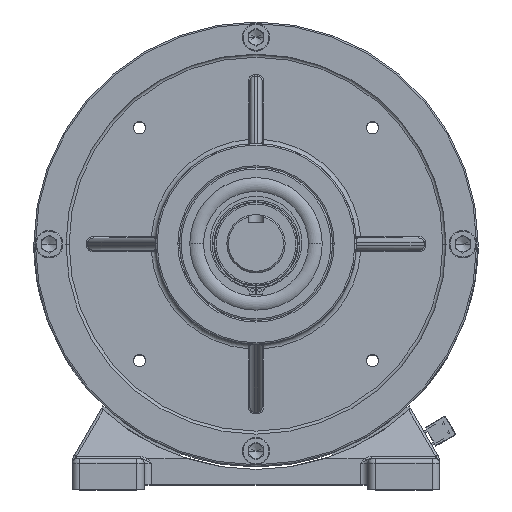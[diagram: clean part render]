
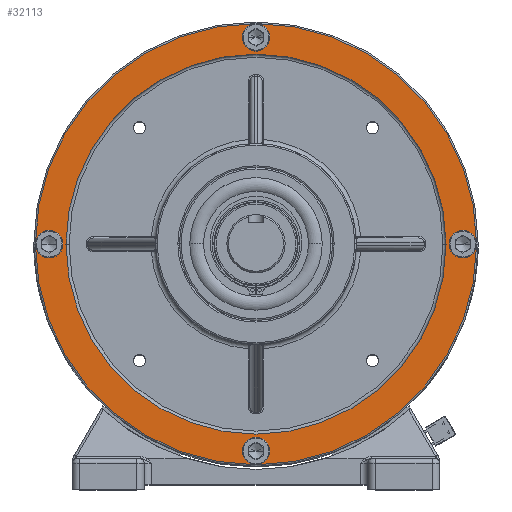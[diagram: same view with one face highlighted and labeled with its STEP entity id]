
A CAD part, top view. The second image highlights one B-rep face of the part: STEP entity #32113.
In plain terms, the highlighted planar face has unit normal (0, 0, 1).
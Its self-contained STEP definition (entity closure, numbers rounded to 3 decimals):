
#843 = EDGE_LOOP ( 'NONE', ( #33745, #5293 ) ) ;
#1781 = AXIS2_PLACEMENT_3D ( 'NONE', #44898, #23584, #2336 ) ;
#1941 = CARTESIAN_POINT ( 'NONE',  ( 135., 0., 348.5 ) ) ;
#2181 = AXIS2_PLACEMENT_3D ( 'NONE', #26622, #5390, #30246 ) ;
#2296 = AXIS2_PLACEMENT_3D ( 'NONE', #16913, #41775, #20469 ) ;
#2336 = DIRECTION ( 'NONE',  ( -1., 0., 0. ) ) ;
#2632 = CARTESIAN_POINT ( 'NONE',  ( 0., 135., 348.5 ) ) ;
#3767 = CIRCLE ( 'NONE', #1781, 7. ) ;
#5293 = ORIENTED_EDGE ( 'NONE', *, *, #15251, .T. ) ;
#5390 = DIRECTION ( 'NONE',  ( 0., 0., -1. ) ) ;
#5490 = ORIENTED_EDGE ( 'NONE', *, *, #11620, .T. ) ;
#5500 = DIRECTION ( 'NONE',  ( -1., 0., 0. ) ) ;
#5989 = CIRCLE ( 'NONE', #39864, 124. ) ;
#6180 = DIRECTION ( 'NONE',  ( -1., 0., 0. ) ) ;
#6523 = DIRECTION ( 'NONE',  ( 0., 0., 1. ) ) ;
#6557 = CIRCLE ( 'NONE', #2181, 7. ) ;
#7127 = AXIS2_PLACEMENT_3D ( 'NONE', #11633, #34487, #16805 ) ;
#7597 = ORIENTED_EDGE ( 'NONE', *, *, #15471, .T. ) ;
#7679 = FACE_OUTER_BOUND ( 'NONE', #44440, .T. ) ;
#8318 = DIRECTION ( 'NONE',  ( 0., 0., 1. ) ) ;
#8787 = VERTEX_POINT ( 'NONE', #23268 ) ;
#8816 = FACE_BOUND ( 'NONE', #36359, .T. ) ;
#9112 = CARTESIAN_POINT ( 'NONE',  ( 0., 124., 348.5 ) ) ;
#9272 = CARTESIAN_POINT ( 'NONE',  ( 128., 0., 348.5 ) ) ;
#9722 = EDGE_CURVE ( 'NONE', #8787, #16651, #35888, .T. ) ;
#11620 = EDGE_CURVE ( 'NONE', #12908, #12903, #28414, .T. ) ;
#11633 = CARTESIAN_POINT ( 'NONE',  ( -135., 0., 348.5 ) ) ;
#12652 = DIRECTION ( 'NONE',  ( -1., 0., 0. ) ) ;
#12903 = VERTEX_POINT ( 'NONE', #28901 ) ;
#12908 = VERTEX_POINT ( 'NONE', #18017 ) ;
#14104 = AXIS2_PLACEMENT_3D ( 'NONE', #37357, #16062, #40925 ) ;
#14134 = VERTEX_POINT ( 'NONE', #44191 ) ;
#14423 = CIRCLE ( 'NONE', #41578, 7. ) ;
#14519 = ORIENTED_EDGE ( 'NONE', *, *, #22130, .T. ) ;
#14599 = VERTEX_POINT ( 'NONE', #25026 ) ;
#14783 = CIRCLE ( 'NONE', #25792, 7. ) ;
#14851 = CARTESIAN_POINT ( 'NONE',  ( 142., 0., 348.5 ) ) ;
#14951 = DIRECTION ( 'NONE',  ( -1., 0., 0. ) ) ;
#15135 = AXIS2_PLACEMENT_3D ( 'NONE', #29399, #19416, #29974 ) ;
#15251 = EDGE_CURVE ( 'NONE', #21447, #29538, #3767, .T. ) ;
#15471 = EDGE_CURVE ( 'NONE', #12903, #12908, #33699, .T. ) ;
#15618 = CIRCLE ( 'NONE', #19395, 144. ) ;
#15788 = PLANE ( 'NONE',  #27388 ) ;
#15838 = DIRECTION ( 'NONE',  ( 0., 0., 1. ) ) ;
#16062 = DIRECTION ( 'NONE',  ( 0., 0., -1. ) ) ;
#16651 = VERTEX_POINT ( 'NONE', #37558 ) ;
#16805 = DIRECTION ( 'NONE',  ( -1., 0., 0. ) ) ;
#16913 = CARTESIAN_POINT ( 'NONE',  ( 0., -135., 348.5 ) ) ;
#17110 = FACE_BOUND ( 'NONE', #18859, .T. ) ;
#18017 = CARTESIAN_POINT ( 'NONE',  ( -128., 0., 348.5 ) ) ;
#18226 = FACE_BOUND ( 'NONE', #843, .T. ) ;
#18859 = EDGE_LOOP ( 'NONE', ( #7597, #5490 ) ) ;
#19193 = EDGE_CURVE ( 'NONE', #14134, #33559, #42387, .T. ) ;
#19395 = AXIS2_PLACEMENT_3D ( 'NONE', #27789, #6523, #31386 ) ;
#19416 = DIRECTION ( 'NONE',  ( 0., 0., -1. ) ) ;
#19696 = VERTEX_POINT ( 'NONE', #37756 ) ;
#20469 = DIRECTION ( 'NONE',  ( -1., 0., 0. ) ) ;
#20975 = EDGE_LOOP ( 'NONE', ( #34541, #34733 ) ) ;
#21377 = ORIENTED_EDGE ( 'NONE', *, *, #22829, .T. ) ;
#21447 = VERTEX_POINT ( 'NONE', #14851 ) ;
#21964 = AXIS2_PLACEMENT_3D ( 'NONE', #37138, #15838, #40701 ) ;
#22130 = EDGE_CURVE ( 'NONE', #16651, #8787, #15618, .T. ) ;
#22459 = CARTESIAN_POINT ( 'NONE',  ( -124., 0., 348.5 ) ) ;
#22829 = EDGE_CURVE ( 'NONE', #14599, #24677, #6557, .T. ) ;
#23206 = CARTESIAN_POINT ( 'NONE',  ( 0., 0., 348.5 ) ) ;
#23268 = CARTESIAN_POINT ( 'NONE',  ( -144., 0., 348.5 ) ) ;
#23584 = DIRECTION ( 'NONE',  ( 0., 0., -1. ) ) ;
#24202 = AXIS2_PLACEMENT_3D ( 'NONE', #23206, #44513, #14951 ) ;
#24246 = CARTESIAN_POINT ( 'NONE',  ( -7., 135., 348.5 ) ) ;
#24677 = VERTEX_POINT ( 'NONE', #29282 ) ;
#24799 = EDGE_CURVE ( 'NONE', #29538, #21447, #14423, .T. ) ;
#25026 = CARTESIAN_POINT ( 'NONE',  ( 7., -135., 348.5 ) ) ;
#25792 = AXIS2_PLACEMENT_3D ( 'NONE', #2632, #27458, #6180 ) ;
#26622 = CARTESIAN_POINT ( 'NONE',  ( 0., -135., 348.5 ) ) ;
#26731 = DIRECTION ( 'NONE',  ( 0., 0., -1. ) ) ;
#27219 = EDGE_LOOP ( 'NONE', ( #34450, #43038 ) ) ;
#27388 = AXIS2_PLACEMENT_3D ( 'NONE', #9112, #33918, #12652 ) ;
#27458 = DIRECTION ( 'NONE',  ( 0., 0., -1. ) ) ;
#27789 = CARTESIAN_POINT ( 'NONE',  ( 0., 0., 348.5 ) ) ;
#28414 = CIRCLE ( 'NONE', #15135, 7. ) ;
#28901 = CARTESIAN_POINT ( 'NONE',  ( -142., 0., 348.5 ) ) ;
#29282 = CARTESIAN_POINT ( 'NONE',  ( -7., -135., 348.5 ) ) ;
#29399 = CARTESIAN_POINT ( 'NONE',  ( -135., 0., 348.5 ) ) ;
#29538 = VERTEX_POINT ( 'NONE', #9272 ) ;
#29586 = CARTESIAN_POINT ( 'NONE',  ( 0., 0., 348.5 ) ) ;
#29917 = CIRCLE ( 'NONE', #2296, 7. ) ;
#29974 = DIRECTION ( 'NONE',  ( -1., 0., 0. ) ) ;
#30246 = DIRECTION ( 'NONE',  ( -1., 0., 0. ) ) ;
#30900 = ORIENTED_EDGE ( 'NONE', *, *, #9722, .T. ) ;
#31386 = DIRECTION ( 'NONE',  ( -1., 0., 0. ) ) ;
#31417 = VERTEX_POINT ( 'NONE', #22459 ) ;
#32113 = ADVANCED_FACE ( 'NONE', ( #18226, #8816, #45494, #17110, #7679, #44378 ), #15788, .F. ) ;
#32458 = CIRCLE ( 'NONE', #21964, 124. ) ;
#33152 = DIRECTION ( 'NONE',  ( 1., 0., 0. ) ) ;
#33559 = VERTEX_POINT ( 'NONE', #24246 ) ;
#33699 = CIRCLE ( 'NONE', #7127, 7. ) ;
#33745 = ORIENTED_EDGE ( 'NONE', *, *, #24799, .T. ) ;
#33918 = DIRECTION ( 'NONE',  ( 0., 0., -1. ) ) ;
#34450 = ORIENTED_EDGE ( 'NONE', *, *, #35496, .F. ) ;
#34487 = DIRECTION ( 'NONE',  ( 0., 0., -1. ) ) ;
#34541 = ORIENTED_EDGE ( 'NONE', *, *, #36673, .T. ) ;
#34733 = ORIENTED_EDGE ( 'NONE', *, *, #19193, .T. ) ;
#35496 = EDGE_CURVE ( 'NONE', #31417, #19696, #5989, .T. ) ;
#35888 = CIRCLE ( 'NONE', #24202, 144. ) ;
#36193 = EDGE_CURVE ( 'NONE', #24677, #14599, #29917, .T. ) ;
#36359 = EDGE_LOOP ( 'NONE', ( #37366, #21377 ) ) ;
#36673 = EDGE_CURVE ( 'NONE', #33559, #14134, #14783, .T. ) ;
#37138 = CARTESIAN_POINT ( 'NONE',  ( 0., 0., 348.5 ) ) ;
#37357 = CARTESIAN_POINT ( 'NONE',  ( 0., 135., 348.5 ) ) ;
#37366 = ORIENTED_EDGE ( 'NONE', *, *, #36193, .T. ) ;
#37558 = CARTESIAN_POINT ( 'NONE',  ( 144., 0., 348.5 ) ) ;
#37756 = CARTESIAN_POINT ( 'NONE',  ( 124., 0., 348.5 ) ) ;
#39864 = AXIS2_PLACEMENT_3D ( 'NONE', #29586, #8318, #33152 ) ;
#40701 = DIRECTION ( 'NONE',  ( 1., 0., 0. ) ) ;
#40925 = DIRECTION ( 'NONE',  ( -1., 0., 0. ) ) ;
#41578 = AXIS2_PLACEMENT_3D ( 'NONE', #1941, #26731, #5500 ) ;
#41775 = DIRECTION ( 'NONE',  ( 0., 0., -1. ) ) ;
#42050 = EDGE_CURVE ( 'NONE', #19696, #31417, #32458, .T. ) ;
#42387 = CIRCLE ( 'NONE', #14104, 7. ) ;
#43038 = ORIENTED_EDGE ( 'NONE', *, *, #42050, .F. ) ;
#44191 = CARTESIAN_POINT ( 'NONE',  ( 7., 135., 348.5 ) ) ;
#44378 = FACE_BOUND ( 'NONE', #27219, .T. ) ;
#44440 = EDGE_LOOP ( 'NONE', ( #30900, #14519 ) ) ;
#44513 = DIRECTION ( 'NONE',  ( 0., 0., 1. ) ) ;
#44898 = CARTESIAN_POINT ( 'NONE',  ( 135., 0., 348.5 ) ) ;
#45494 = FACE_BOUND ( 'NONE', #20975, .T. ) ;
